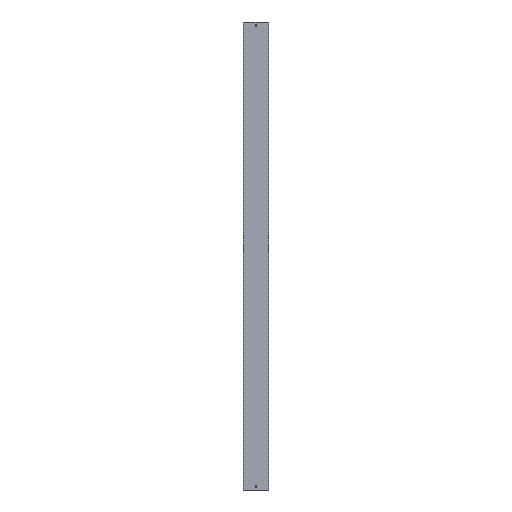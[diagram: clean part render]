
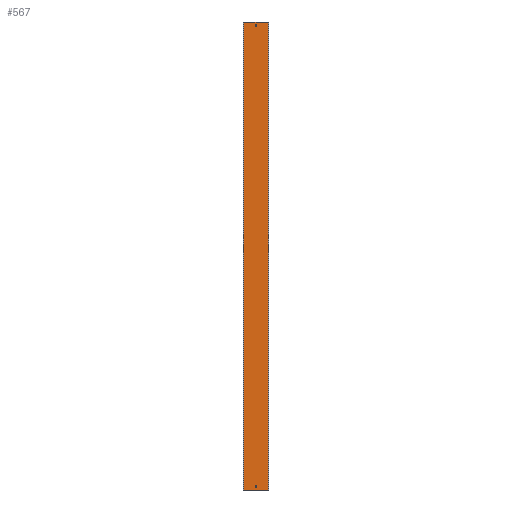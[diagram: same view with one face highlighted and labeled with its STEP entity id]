
A CAD part, front view. The second image highlights one B-rep face of the part: STEP entity #567.
In plain terms, the highlighted planar face has unit normal (0, -1, 0).
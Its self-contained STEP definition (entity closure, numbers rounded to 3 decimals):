
#3 = VERTEX_POINT ( 'NONE', #568 ) ;
#15 = VECTOR ( 'NONE', #553, 1000. ) ;
#28 = CARTESIAN_POINT ( 'NONE',  ( 52., -1.5, -1000. ) ) ;
#42 = CARTESIAN_POINT ( 'NONE',  ( -52., -1.5, 1000. ) ) ;
#44 = EDGE_CURVE ( 'NONE', #444, #396, #457, .T. ) ;
#49 = PLANE ( 'NONE',  #306 ) ;
#51 = CARTESIAN_POINT ( 'NONE',  ( 3.25, -1.5, -988. ) ) ;
#52 = CARTESIAN_POINT ( 'NONE',  ( -53.5, -1.5, -979. ) ) ;
#62 = DIRECTION ( 'NONE',  ( 0., 0., -1. ) ) ;
#65 = LINE ( 'NONE', #52, #438 ) ;
#69 = DIRECTION ( 'NONE',  ( -1., 0., 0. ) ) ;
#72 = EDGE_CURVE ( 'NONE', #138, #571, #65, .T. ) ;
#83 = CARTESIAN_POINT ( 'NONE',  ( -3.25, -1.5, 979. ) ) ;
#84 = ORIENTED_EDGE ( 'NONE', *, *, #299, .T. ) ;
#85 = CARTESIAN_POINT ( 'NONE',  ( -3.25, -1.5, 1000. ) ) ;
#86 = CARTESIAN_POINT ( 'NONE',  ( -52., -1.5, -1000. ) ) ;
#91 = DIRECTION ( 'NONE',  ( 0., 0., 1. ) ) ;
#102 = ORIENTED_EDGE ( 'NONE', *, *, #542, .F. ) ;
#105 = LINE ( 'NONE', #239, #426 ) ;
#107 = EDGE_CURVE ( 'NONE', #210, #337, #328, .T. ) ;
#110 = LINE ( 'NONE', #85, #220 ) ;
#120 = CARTESIAN_POINT ( 'NONE',  ( -3.25, -1.5, 988. ) ) ;
#136 = LINE ( 'NONE', #351, #481 ) ;
#138 = VERTEX_POINT ( 'NONE', #383 ) ;
#140 = FACE_BOUND ( 'NONE', #422, .T. ) ;
#145 = VECTOR ( 'NONE', #176, 1000. ) ;
#151 = ORIENTED_EDGE ( 'NONE', *, *, #500, .F. ) ;
#166 = DIRECTION ( 'NONE',  ( -1., 0., 0. ) ) ;
#176 = DIRECTION ( 'NONE',  ( -1., 0., 0. ) ) ;
#181 = FACE_OUTER_BOUND ( 'NONE', #227, .T. ) ;
#186 = VECTOR ( 'NONE', #415, 1000. ) ;
#191 = EDGE_CURVE ( 'NONE', #259, #467, #521, .T. ) ;
#200 = ORIENTED_EDGE ( 'NONE', *, *, #191, .T. ) ;
#205 = DIRECTION ( 'NONE',  ( 0., 0., -1. ) ) ;
#210 = VERTEX_POINT ( 'NONE', #523 ) ;
#211 = CARTESIAN_POINT ( 'NONE',  ( 52., -1.5, 1000. ) ) ;
#215 = LINE ( 'NONE', #496, #145 ) ;
#220 = VECTOR ( 'NONE', #205, 1000. ) ;
#225 = EDGE_CURVE ( 'NONE', #337, #378, #110, .T. ) ;
#227 = EDGE_LOOP ( 'NONE', ( #102, #287, #498, #425 ) ) ;
#230 = EDGE_CURVE ( 'NONE', #3, #358, #439, .T. ) ;
#232 = FACE_BOUND ( 'NONE', #321, .T. ) ;
#239 = CARTESIAN_POINT ( 'NONE',  ( -53.5, -1.5, 979. ) ) ;
#259 = VERTEX_POINT ( 'NONE', #51 ) ;
#262 = CARTESIAN_POINT ( 'NONE',  ( -3.25, -1.5, -988. ) ) ;
#264 = CARTESIAN_POINT ( 'NONE',  ( -3.25, -1.5, 1000. ) ) ;
#279 = VECTOR ( 'NONE', #582, 1000. ) ;
#281 = ORIENTED_EDGE ( 'NONE', *, *, #107, .F. ) ;
#284 = DIRECTION ( 'NONE',  ( 0., -1., 0. ) ) ;
#287 = ORIENTED_EDGE ( 'NONE', *, *, #230, .F. ) ;
#299 = EDGE_CURVE ( 'NONE', #571, #259, #374, .T. ) ;
#306 = AXIS2_PLACEMENT_3D ( 'NONE', #461, #284, #546 ) ;
#310 = EDGE_CURVE ( 'NONE', #378, #505, #105, .T. ) ;
#321 = EDGE_LOOP ( 'NONE', ( #200, #394, #487, #84 ) ) ;
#328 = LINE ( 'NONE', #421, #404 ) ;
#330 = ORIENTED_EDGE ( 'NONE', *, *, #310, .F. ) ;
#331 = VECTOR ( 'NONE', #166, 1000. ) ;
#332 = DIRECTION ( 'NONE',  ( 1., 0., 0. ) ) ;
#337 = VERTEX_POINT ( 'NONE', #120 ) ;
#351 = CARTESIAN_POINT ( 'NONE',  ( 3.25, -1.5, 1000. ) ) ;
#358 = VERTEX_POINT ( 'NONE', #28 ) ;
#360 = CARTESIAN_POINT ( 'NONE',  ( -52., -1.5, 1000. ) ) ;
#374 = LINE ( 'NONE', #468, #405 ) ;
#378 = VERTEX_POINT ( 'NONE', #83 ) ;
#383 = CARTESIAN_POINT ( 'NONE',  ( -3.25, -1.5, -979. ) ) ;
#386 = LINE ( 'NONE', #264, #279 ) ;
#394 = ORIENTED_EDGE ( 'NONE', *, *, #432, .T. ) ;
#396 = VERTEX_POINT ( 'NONE', #86 ) ;
#404 = VECTOR ( 'NONE', #69, 1000. ) ;
#405 = VECTOR ( 'NONE', #62, 1000. ) ;
#409 = CARTESIAN_POINT ( 'NONE',  ( 3.25, -1.5, -979. ) ) ;
#414 = CARTESIAN_POINT ( 'NONE',  ( -53.5, -1.5, -1000. ) ) ;
#415 = DIRECTION ( 'NONE',  ( 0., 0., -1. ) ) ;
#420 = LINE ( 'NONE', #414, #15 ) ;
#421 = CARTESIAN_POINT ( 'NONE',  ( -53.5, -1.5, 988. ) ) ;
#422 = EDGE_LOOP ( 'NONE', ( #528, #281, #151, #330 ) ) ;
#425 = ORIENTED_EDGE ( 'NONE', *, *, #44, .T. ) ;
#426 = VECTOR ( 'NONE', #557, 1000. ) ;
#432 = EDGE_CURVE ( 'NONE', #467, #138, #386, .T. ) ;
#438 = VECTOR ( 'NONE', #332, 1000. ) ;
#439 = LINE ( 'NONE', #211, #470 ) ;
#444 = VERTEX_POINT ( 'NONE', #360 ) ;
#457 = LINE ( 'NONE', #42, #186 ) ;
#461 = CARTESIAN_POINT ( 'NONE',  ( -53.5, -1.5, 1000. ) ) ;
#467 = VERTEX_POINT ( 'NONE', #262 ) ;
#468 = CARTESIAN_POINT ( 'NONE',  ( 3.25, -1.5, 1000. ) ) ;
#470 = VECTOR ( 'NONE', #492, 1000. ) ;
#481 = VECTOR ( 'NONE', #91, 1000. ) ;
#487 = ORIENTED_EDGE ( 'NONE', *, *, #72, .T. ) ;
#488 = CARTESIAN_POINT ( 'NONE',  ( -53.5, -1.5, -988. ) ) ;
#492 = DIRECTION ( 'NONE',  ( 0., 0., -1. ) ) ;
#495 = EDGE_CURVE ( 'NONE', #3, #444, #215, .T. ) ;
#496 = CARTESIAN_POINT ( 'NONE',  ( -53.5, -1.5, 1000. ) ) ;
#498 = ORIENTED_EDGE ( 'NONE', *, *, #495, .T. ) ;
#500 = EDGE_CURVE ( 'NONE', #505, #210, #136, .T. ) ;
#505 = VERTEX_POINT ( 'NONE', #538 ) ;
#521 = LINE ( 'NONE', #488, #331 ) ;
#523 = CARTESIAN_POINT ( 'NONE',  ( 3.25, -1.5, 988. ) ) ;
#528 = ORIENTED_EDGE ( 'NONE', *, *, #225, .F. ) ;
#538 = CARTESIAN_POINT ( 'NONE',  ( 3.25, -1.5, 979. ) ) ;
#542 = EDGE_CURVE ( 'NONE', #358, #396, #420, .T. ) ;
#546 = DIRECTION ( 'NONE',  ( 0., 0., -1. ) ) ;
#553 = DIRECTION ( 'NONE',  ( -1., 0., 0. ) ) ;
#557 = DIRECTION ( 'NONE',  ( 1., 0., 0. ) ) ;
#567 = ADVANCED_FACE ( 'NONE', ( #140, #181, #232 ), #49, .T. ) ;
#568 = CARTESIAN_POINT ( 'NONE',  ( 52., -1.5, 1000. ) ) ;
#571 = VERTEX_POINT ( 'NONE', #409 ) ;
#582 = DIRECTION ( 'NONE',  ( 0., 0., 1. ) ) ;
